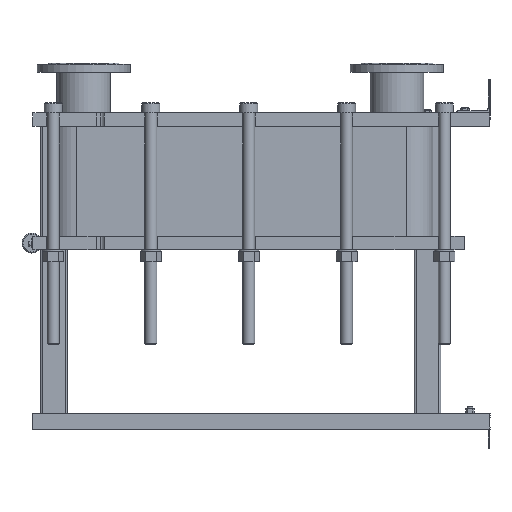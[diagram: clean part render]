
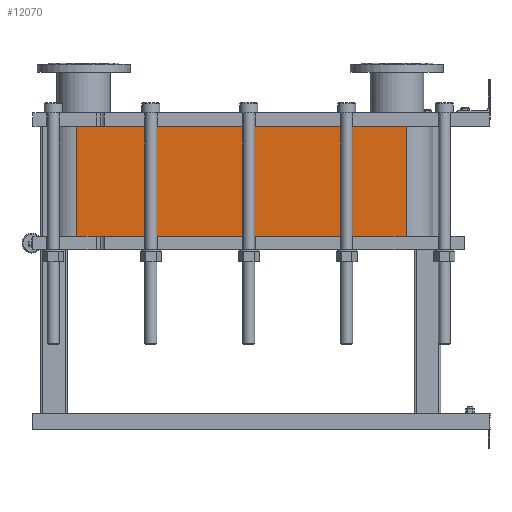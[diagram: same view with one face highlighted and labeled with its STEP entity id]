
A CAD part, left-side view. The second image highlights one B-rep face of the part: STEP entity #12070.
In plain terms, the highlighted planar face has unit normal (-1, 0, 0).
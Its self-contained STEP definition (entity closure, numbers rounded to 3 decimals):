
#1064=LINE('',#21140,#2164);
#1065=LINE('',#21144,#2165);
#1066=LINE('',#21146,#2166);
#1067=LINE('',#21147,#2167);
#2164=VECTOR('',#15790,10.);
#2165=VECTOR('',#15795,10.);
#2166=VECTOR('',#15796,10.);
#2167=VECTOR('',#15797,10.);
#3304=FACE_OUTER_BOUND('',#4091,.T.);
#4091=EDGE_LOOP('',(#9793,#9794,#9795,#9796));
#5677=VERTEX_POINT('',#21137);
#5678=VERTEX_POINT('',#21139);
#5679=VERTEX_POINT('',#21143);
#5680=VERTEX_POINT('',#21145);
#7118=EDGE_CURVE('',#5678,#5677,#1064,.T.);
#7120=EDGE_CURVE('',#5677,#5679,#1065,.T.);
#7121=EDGE_CURVE('',#5680,#5679,#1066,.T.);
#7122=EDGE_CURVE('',#5680,#5678,#1067,.T.);
#9793=ORIENTED_EDGE('',*,*,#7120,.T.);
#9794=ORIENTED_EDGE('',*,*,#7121,.F.);
#9795=ORIENTED_EDGE('',*,*,#7122,.T.);
#9796=ORIENTED_EDGE('',*,*,#7118,.T.);
#11441=PLANE('',#13191);
#12070=ADVANCED_FACE('',(#3304),#11441,.T.);
#13191=AXIS2_PLACEMENT_3D('',#21142,#15793,#15794);
#15790=DIRECTION('',(0.,0.,-1.));
#15793=DIRECTION('center_axis',(-1.,0.,0.));
#15794=DIRECTION('ref_axis',(0.,1.,0.));
#15795=DIRECTION('',(0.,-1.,0.));
#15796=DIRECTION('',(0.,0.,-1.));
#15797=DIRECTION('',(0.,1.,0.));
#21137=CARTESIAN_POINT('',(-248.152,1243.818,-331.2));
#21139=CARTESIAN_POINT('',(-248.152,1243.818,0.));
#21140=CARTESIAN_POINT('',(-248.152,1243.818,0.));
#21142=CARTESIAN_POINT('Origin',(-248.152,251.818,0.));
#21143=CARTESIAN_POINT('',(-248.152,251.818,-331.2));
#21144=CARTESIAN_POINT('',(-248.152,499.818,-331.2));
#21145=CARTESIAN_POINT('',(-248.152,251.818,0.));
#21146=CARTESIAN_POINT('',(-248.152,251.818,0.));
#21147=CARTESIAN_POINT('',(-248.152,251.818,0.));
